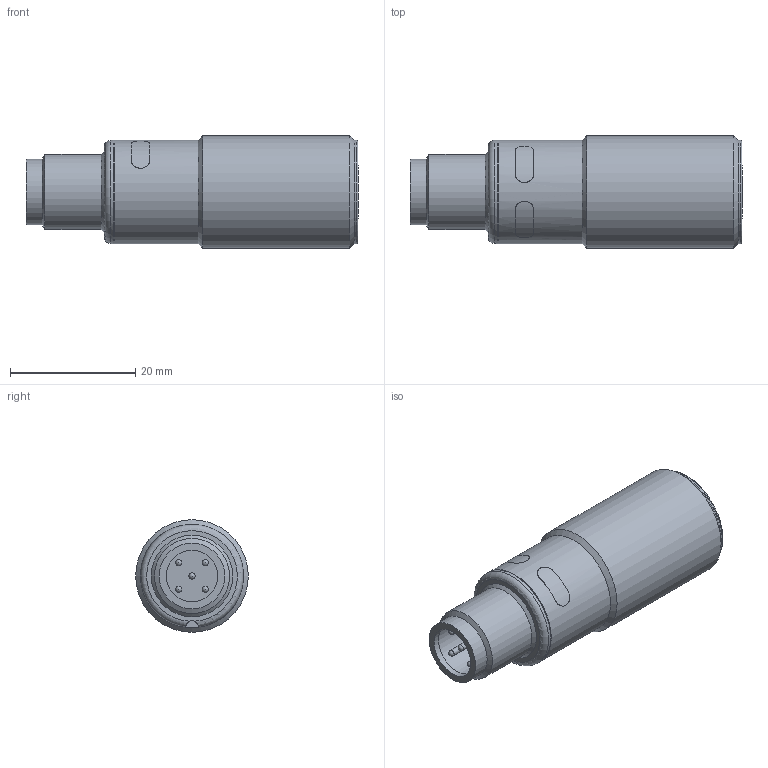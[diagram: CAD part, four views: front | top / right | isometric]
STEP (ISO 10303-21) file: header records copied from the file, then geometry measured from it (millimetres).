
FILE_DESCRIPTION(/* description */ ('Ipc-25 /CXX/M18'),/* implementation_level */ '2;1');
FILE_NAME(/* name */ 'J:\Projekte\Kunststoff-Blechteile\Zeichnungen\Bibliothek Inventor\3D Solids\pico+\STP\pico+25\pico+25_X.stp',/* time_stamp */ '2017-11-06T12:16:34+01:00',/* author */ ('Oliver Liedtke'),/* organization */ (''),/* preprocessor_version */ 'ST-DEVELOPER v16.5',/* originating_system */ 'Autodesk Inventor 2017',/* authorisation */ '');
FILE_SCHEMA (('AUTOMOTIVE_DESIGN { 1 0 10303 214 3 1 1 }'));
Length unit declared in the file: millimetre
Products named in the file (1): pico+25_X
Bounding box: 53.07 x 18 x 18 mm (x, y, z)
Volume: 10488 mm3; surface area: 3464.8 mm2
Topology: 1 solids, 1 shells, 50 faces, 111 edges, 72 vertices
Faces by surface type: cylinder 20, plane 15, sphere 5, cone 4, bspline 4, torus 2
Full cylindrical faces by diameter (mm): 1 x5, 8.3 x1, 8.5 x1, 9 x1, 10.5 x1, 12 x1, 14.8 x1, 16.3 x1, 16.5 x3, 18 x1
Entity records: 2792 total; most frequent: CARTESIAN_POINT 1773, DIRECTION 202, ORIENTED_EDGE 138, AXIS2_PLACEMENT_3D 96, EDGE_LOOP 86, EDGE_CURVE 69, VERTEX_POINT 57, FACE_OUTER_BOUND 50
